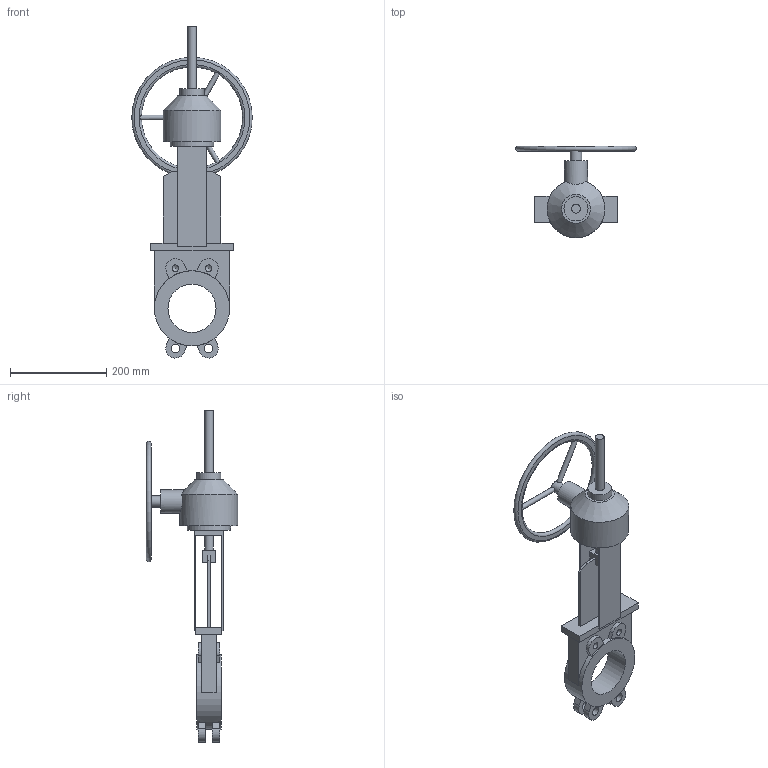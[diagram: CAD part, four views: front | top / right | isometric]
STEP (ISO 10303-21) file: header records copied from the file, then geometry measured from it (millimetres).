
FILE_DESCRIPTION(('STEP AP203'), '1');
FILE_NAME('Çàäâèæêà øèáåðíàÿ K51GV DN100 ðåäóêòîð+âûäâèæíîé øïèíäåëü', '', ('UNSPECIFIED'), ('UNSPECIFIED'), 'ASCON STEP Converter 1.6', 'ASCON Math Kernel', '');
FILE_SCHEMA(('CONFIG_CONTROL_DESIGN'));
Length unit declared in the file: millimetre
Bounding box: 250 x 190 x 689.13 mm (x, y, z)
Volume: 2590329.9 mm3; surface area: 329318.4 mm2
Topology: 1 solids, 1 shells, 110 faces, 288 edges, 185 vertices
Faces by surface type: plane 73, cylinder 28, cone 5, torus 4
Full cylindrical faces by diameter (mm): 10 x3, 13.835 x4, 18 x6, 24 x1, 48 x1, 50 x1, 90 x1, 100 x1, 120 x1, 156 x1
Entity records: 5531 total; most frequent: CARTESIAN_POINT 1960, DIRECTION 546, ORIENTED_EDGE 514, EDGE_CURVE 257, AXIS2_PLACEMENT_3D 193, VERTEX_POINT 181, EDGE_LOOP 162, LINE 160
